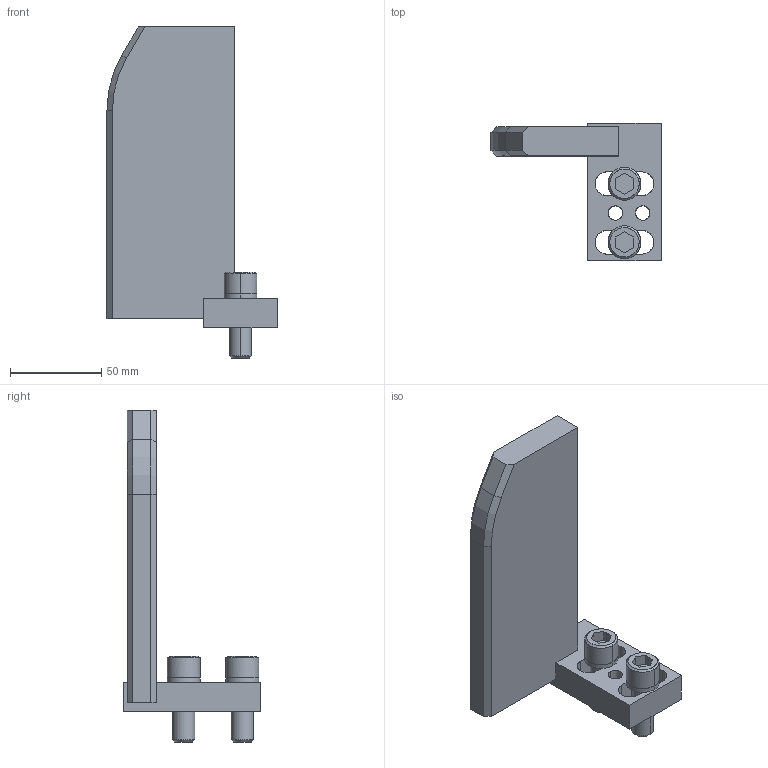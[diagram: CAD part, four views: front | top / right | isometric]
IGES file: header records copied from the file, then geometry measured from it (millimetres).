
Global section: file name: E:\UnigraphicsGraphicData\MISUMI_PRESS-PARTS\IGES\3d_ngwbr-165-30-s70-m12_01598_r00.igs; native system: NX V5.0; preprocessor: UGS NX IGES V5.0; author: MISUMI; date: 20110105.162115; units: millimetre
Bounding box: 93 x 75 x 181.5 mm (x, y, z)
Surface area: 46776.6 mm2 (no closed solid volume)
Topology: 0 solids, 0 shells, 104 faces, 665 edges, 665 vertices
Faces by surface type: bspline 104
